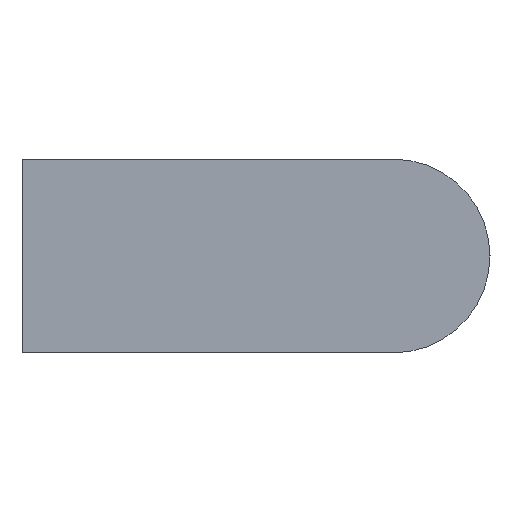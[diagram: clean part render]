
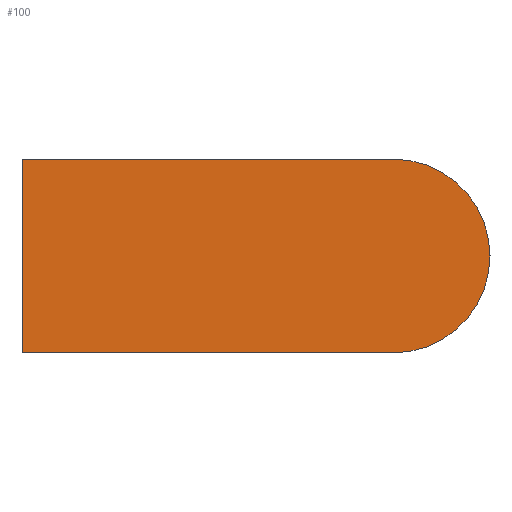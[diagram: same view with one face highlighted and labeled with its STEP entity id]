
A CAD part, left-side view. The second image highlights one B-rep face of the part: STEP entity #100.
In plain terms, the highlighted planar face has unit normal (-1, 0, 0).
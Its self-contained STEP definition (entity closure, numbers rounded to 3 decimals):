
#100 = ADVANCED_FACE( '', ( #204 ), #205, .F. );
#204 = FACE_OUTER_BOUND( '', #299, .T. );
#205 = PLANE( '', #300 );
#299 = EDGE_LOOP( '', ( #499, #500, #501, #502 ) );
#300 = AXIS2_PLACEMENT_3D( '', #503, #504, #505 );
#499 = ORIENTED_EDGE( '', *, *, #560, .F. );
#500 = ORIENTED_EDGE( '', *, *, #524, .F. );
#501 = ORIENTED_EDGE( '', *, *, #564, .F. );
#502 = ORIENTED_EDGE( '', *, *, #568, .F. );
#503 = CARTESIAN_POINT( '', ( -15., -28.04, 0. ) );
#504 = DIRECTION( '', ( 1., 0., 0. ) );
#505 = DIRECTION( '', ( 0., 0., -1. ) );
#524 = EDGE_CURVE( '', #612, #613, #614, .T. );
#560 = EDGE_CURVE( '', #613, #667, #668, .T. );
#564 = EDGE_CURVE( '', #673, #612, #674, .T. );
#568 = EDGE_CURVE( '', #667, #673, #679, .T. );
#612 = VERTEX_POINT( '', #732 );
#613 = VERTEX_POINT( '', #733 );
#614 = LINE( '', #734, #735 );
#667 = VERTEX_POINT( '', #806 );
#668 = LINE( '', #807, #808 );
#673 = VERTEX_POINT( '', #815 );
#674 = LINE( '', #816, #817 );
#679 = CIRCLE( '', #824, 7.32 );
#732 = CARTESIAN_POINT( '', ( -15., 0., -7.32 ) );
#733 = CARTESIAN_POINT( '', ( -15., 0., 7.32 ) );
#734 = CARTESIAN_POINT( '', ( -15., 0., -7.32 ) );
#735 = VECTOR( '', #865, 1000. );
#806 = CARTESIAN_POINT( '', ( -15., -28.04, 7.32 ) );
#807 = CARTESIAN_POINT( '', ( -15., 0., 7.32 ) );
#808 = VECTOR( '', #905, 1000. );
#815 = CARTESIAN_POINT( '', ( -15., -28.04, -7.32 ) );
#816 = CARTESIAN_POINT( '', ( -15., -28.04, -7.32 ) );
#817 = VECTOR( '', #908, 1000. );
#824 = AXIS2_PLACEMENT_3D( '', #911, #912, #913 );
#865 = DIRECTION( '', ( 0., 0., 1. ) );
#905 = DIRECTION( '', ( 0., -1., 0. ) );
#908 = DIRECTION( '', ( 0., 1., 0. ) );
#911 = CARTESIAN_POINT( '', ( -15., -28.04, 0. ) );
#912 = DIRECTION( '', ( 1., 0., 0. ) );
#913 = DIRECTION( '', ( 0., 0., -1. ) );
